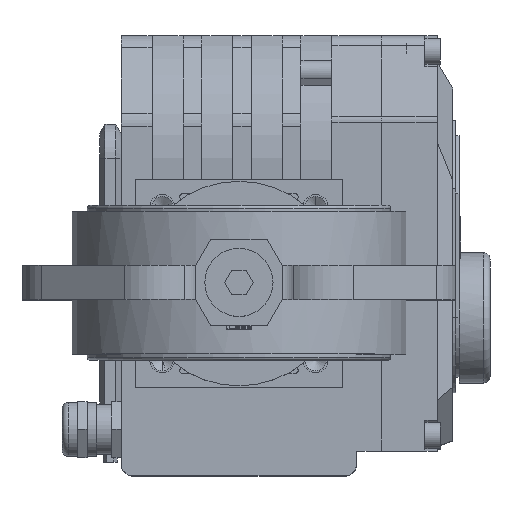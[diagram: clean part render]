
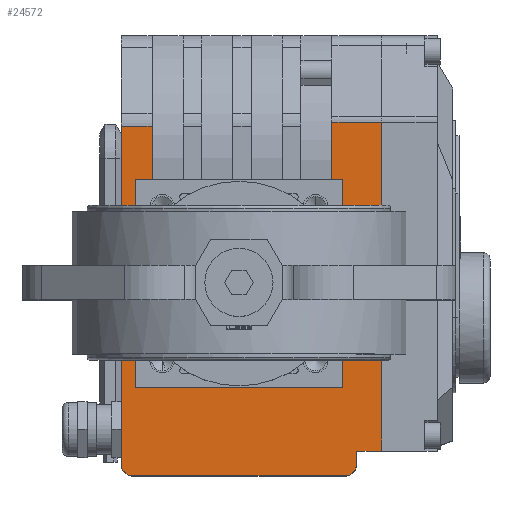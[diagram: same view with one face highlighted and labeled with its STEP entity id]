
A CAD part, top view. The second image highlights one B-rep face of the part: STEP entity #24572.
In plain terms, the highlighted planar face has unit normal (0, 0, 1) as drawn and (0, -1, 0) by its records, which use the part's own axes.
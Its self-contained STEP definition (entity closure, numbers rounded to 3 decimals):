
#19545=DIRECTION('',(1.,0.,0.));
#19546=VECTOR('',#19545,108.749);
#19547=CARTESIAN_POINT('',(-47.,-36.5,0.));
#19548=LINE('',#19547,#19546);
#19972=DIRECTION('',(-1.,0.,0.));
#19973=VECTOR('',#19972,18.604);
#19974=CARTESIAN_POINT('',(63.104,-36.5,-68.));
#19975=LINE('',#19974,#19973);
#20232=DIRECTION('',(0.,0.,1.));
#20233=VECTOR('',#20232,16.);
#20234=CARTESIAN_POINT('',(63.104,-36.5,-84.));
#20235=LINE('',#20234,#20233);
#20236=DIRECTION('',(-1.,0.,0.));
#20237=VECTOR('',#20236,106.104);
#20238=CARTESIAN_POINT('',(63.104,-36.5,-84.));
#20239=LINE('',#20238,#20237);
#20240=CARTESIAN_POINT('',(-47.,-36.5,-72.));
#20241=DIRECTION('',(0.,-1.,0.));
#20242=DIRECTION('',(-1.,0.,0.));
#20243=AXIS2_PLACEMENT_3D('',#20240,#20241,#20242);
#20245=DIRECTION('',(0.,0.,-1.));
#20246=VECTOR('',#20245,68.);
#20247=CARTESIAN_POINT('',(-51.,-36.5,-4.));
#20248=LINE('',#20247,#20246);
#20249=CARTESIAN_POINT('',(-47.,-36.5,-4.));
#20250=DIRECTION('',(0.,-1.,0.));
#20251=DIRECTION('',(0.,0.,1.));
#20252=AXIS2_PLACEMENT_3D('',#20249,#20250,#20251);
#20254=DIRECTION('',(0.,0.,1.));
#20255=VECTOR('',#20254,10.);
#20256=CARTESIAN_POINT('',(61.749,-36.5,-10.));
#20257=LINE('',#20256,#20255);
#20258=DIRECTION('',(-1.,0.,0.));
#20259=VECTOR('',#20258,17.249);
#20260=CARTESIAN_POINT('',(61.749,-36.5,-10.));
#20261=LINE('',#20260,#20259);
#20262=DIRECTION('',(0.,0.,1.));
#20263=VECTOR('',#20262,5.5);
#20264=CARTESIAN_POINT('',(44.5,-36.5,-10.));
#20265=LINE('',#20264,#20263);
#20266=DIRECTION('',(-1.,0.,0.));
#20267=VECTOR('',#20266,67.);
#20268=CARTESIAN_POINT('',(44.5,-36.5,-4.5));
#20269=LINE('',#20268,#20267);
#20270=DIRECTION('',(0.,0.,-1.));
#20271=VECTOR('',#20270,67.);
#20272=CARTESIAN_POINT('',(-22.5,-36.5,-4.5));
#20273=LINE('',#20272,#20271);
#20274=DIRECTION('',(1.,0.,0.));
#20275=VECTOR('',#20274,67.);
#20276=CARTESIAN_POINT('',(-22.5,-36.5,-71.5));
#20277=LINE('',#20276,#20275);
#20278=DIRECTION('',(0.,0.,1.));
#20279=VECTOR('',#20278,3.5);
#20280=CARTESIAN_POINT('',(44.5,-36.5,-71.5));
#20281=LINE('',#20280,#20279);
#20571=DIRECTION('',(1.,0.,0.));
#20572=VECTOR('',#20571,4.);
#20573=CARTESIAN_POINT('',(-47.,-36.5,-76.));
#20574=LINE('',#20573,#20572);
#20607=DIRECTION('',(0.,0.,-1.));
#20608=VECTOR('',#20607,8.);
#20609=CARTESIAN_POINT('',(-43.,-36.5,-76.));
#20610=LINE('',#20609,#20608);
#22779=CARTESIAN_POINT('',(-43.,-36.5,-84.));
#22781=VERTEX_POINT('',#22779);
#22783=CARTESIAN_POINT('',(-43.,-36.5,-76.));
#22785=VERTEX_POINT('',#22783);
#22787=CARTESIAN_POINT('',(-47.,-36.5,0.));
#22788=CARTESIAN_POINT('',(-51.,-36.5,-4.));
#22789=VERTEX_POINT('',#22787);
#22790=VERTEX_POINT('',#22788);
#22799=CARTESIAN_POINT('',(-51.,-36.5,-72.));
#22800=CARTESIAN_POINT('',(-47.,-36.5,-76.));
#22801=VERTEX_POINT('',#22799);
#22802=VERTEX_POINT('',#22800);
#22831=CARTESIAN_POINT('',(61.749,-36.5,0.));
#22833=VERTEX_POINT('',#22831);
#22975=CARTESIAN_POINT('',(61.749,-36.5,-10.));
#22976=VERTEX_POINT('',#22975);
#23071=CARTESIAN_POINT('',(-22.5,-36.5,-4.5));
#23072=CARTESIAN_POINT('',(-22.5,-36.5,-71.5));
#23073=VERTEX_POINT('',#23071);
#23074=VERTEX_POINT('',#23072);
#23075=CARTESIAN_POINT('',(44.5,-36.5,-71.5));
#23076=VERTEX_POINT('',#23075);
#23077=CARTESIAN_POINT('',(44.5,-36.5,-68.));
#23078=VERTEX_POINT('',#23077);
#23091=CARTESIAN_POINT('',(44.5,-36.5,-10.));
#23092=CARTESIAN_POINT('',(44.5,-36.5,-4.5));
#23093=VERTEX_POINT('',#23091);
#23094=VERTEX_POINT('',#23092);
#23767=CARTESIAN_POINT('',(63.104,-36.5,-68.));
#23769=VERTEX_POINT('',#23767);
#23773=CARTESIAN_POINT('',(63.104,-36.5,-84.));
#23774=VERTEX_POINT('',#23773);
#24537=CARTESIAN_POINT('',(-51.,-36.5,0.));
#24538=DIRECTION('',(0.,-1.,0.));
#24539=DIRECTION('',(1.,0.,0.));
#24540=AXIS2_PLACEMENT_3D('',#24537,#24538,#24539);
#24541=PLANE('',#24540);
#24543=ORIENTED_EDGE('',*,*,#24542,.F.);
#24545=ORIENTED_EDGE('',*,*,#24544,.T.);
#24547=ORIENTED_EDGE('',*,*,#24546,.F.);
#24549=ORIENTED_EDGE('',*,*,#24548,.F.);
#24551=ORIENTED_EDGE('',*,*,#24550,.F.);
#24553=ORIENTED_EDGE('',*,*,#24552,.F.);
#24554=ORIENTED_EDGE('',*,*,#24482,.F.);
#24555=ORIENTED_EDGE('',*,*,#23794,.T.);
#24557=ORIENTED_EDGE('',*,*,#24556,.F.);
#24558=ORIENTED_EDGE('',*,*,#23936,.T.);
#24560=ORIENTED_EDGE('',*,*,#24559,.T.);
#24562=ORIENTED_EDGE('',*,*,#24561,.T.);
#24564=ORIENTED_EDGE('',*,*,#24563,.T.);
#24566=ORIENTED_EDGE('',*,*,#24565,.T.);
#24568=ORIENTED_EDGE('',*,*,#24567,.T.);
#24569=ORIENTED_EDGE('',*,*,#24198,.F.);
#24570=EDGE_LOOP('',(#24543,#24545,#24547,#24549,#24551,#24553,#24554,#24555,
#24557,#24558,#24560,#24562,#24564,#24566,#24568,#24569));
#24571=FACE_OUTER_BOUND('',#24570,.F.);
#24572=ADVANCED_FACE('',(#24571),#24541,.T.);
#20244=CIRCLE('',#20243,4.);
#20253=CIRCLE('',#20252,4.);
#23794=EDGE_CURVE('',#22789,#22833,#19548,.T.);
#23936=EDGE_CURVE('',#22976,#23093,#20261,.T.);
#24198=EDGE_CURVE('',#23769,#23078,#19975,.T.);
#24482=EDGE_CURVE('',#22789,#22790,#20253,.T.);
#24542=EDGE_CURVE('',#23774,#23769,#20235,.T.);
#24544=EDGE_CURVE('',#23774,#22781,#20239,.T.);
#24546=EDGE_CURVE('',#22785,#22781,#20610,.T.);
#24548=EDGE_CURVE('',#22802,#22785,#20574,.T.);
#24550=EDGE_CURVE('',#22801,#22802,#20244,.T.);
#24552=EDGE_CURVE('',#22790,#22801,#20248,.T.);
#24556=EDGE_CURVE('',#22976,#22833,#20257,.T.);
#24559=EDGE_CURVE('',#23093,#23094,#20265,.T.);
#24561=EDGE_CURVE('',#23094,#23073,#20269,.T.);
#24563=EDGE_CURVE('',#23073,#23074,#20273,.T.);
#24565=EDGE_CURVE('',#23074,#23076,#20277,.T.);
#24567=EDGE_CURVE('',#23076,#23078,#20281,.T.);
